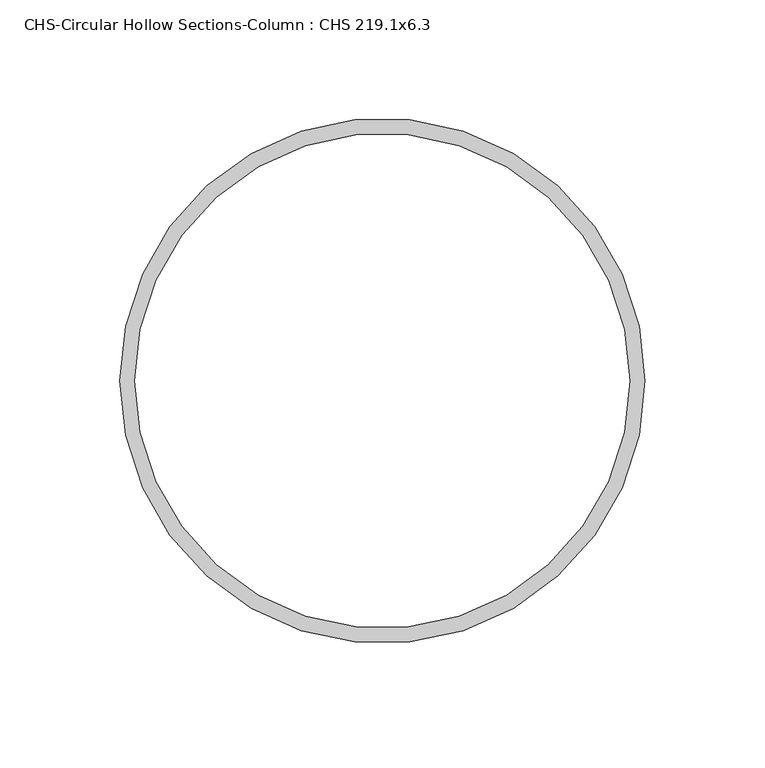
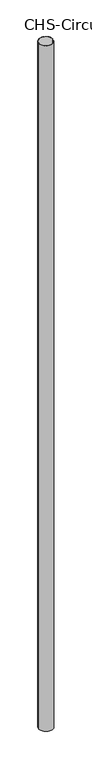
"""IFC4 building model written with IfcOpenShell, lengths in millimetres: column geometry, CHS-Circular Hollow Sections-Column : CHS 219.1x6.3."""

from ifc_helpers import new_model, si_unit, point, frame, origin, origin_2d, place, context, project, spatial, circle_curve, trimmed, segment, composite_curve, outline, extrude, source, transform, mapped, element, save


def chs_circular_hollow_sections_column_chs_219_1x6_3_8ef82d70(model_context):
    return source(origin(), model_context, "Body", "SweptSolid", [
        extrude(outline(composite_curve([segment(trimmed(circle_curve(origin_2d(), 109.55), [point((-109.55, 0.0))], [point((109.55, 0.0))], False, "CARTESIAN"), True, "CONTINUOUS"), segment(trimmed(circle_curve(origin_2d(), 109.55), [point((109.55, 0.0))], [point((-109.55, 0.0))], False, "CARTESIAN"), True, "CONTINUOUS")], self_intersect=False), holes=[composite_curve([segment(trimmed(circle_curve(origin_2d(), 103.25), [point((-103.25, 0.0))], [point((103.25, 0.0))], True, "CARTESIAN"), True, "CONTINUOUS"), segment(trimmed(circle_curve(origin_2d(), 103.25), [point((103.25, 0.0))], [point((-103.25, 0.0))], True, "CARTESIAN"), True, "CONTINUOUS")], self_intersect=False)]), frame((0.0, 0.0, -450.0), z_axis=(0.0, 0.0, 1.0), x_axis=(1.0, 0.0, 0.0)), (0.0, 0.0, 1.0), 11450.0),
    ])


if __name__ == "__main__":
    model = new_model("IFC4")
    model_context = context("Model", 3, world=origin())
    ifc_project = project(units=[si_unit("LENGTHUNIT", "METRE", prefix="MILLI")], contexts=[model_context])
    site = spatial("IfcSite", under=ifc_project)
    building = spatial("IfcBuilding", under=site)
    placement = place(None, origin())
    chs_circular_hollow_sections_column_chs_219_1x6_3_shape = chs_circular_hollow_sections_column_chs_219_1x6_3_8ef82d70(model_context)
    element("IfcColumn", 1, ObjectType="CHS-Circular Hollow Sections-Column : CHS 219.1x6.3", at=placement, inside=building, context=model_context, shape_type="MappedRepresentation", body=[
        mapped(chs_circular_hollow_sections_column_chs_219_1x6_3_shape, transform((0.0, 0.0, 0.0), x_axis=(1.0, 0.0, 0.0), y_axis=(0.0, 1.0, 0.0), z_axis=(0.0, 0.0, 1.0))),
    ])
    save(model, "model.ifc")
